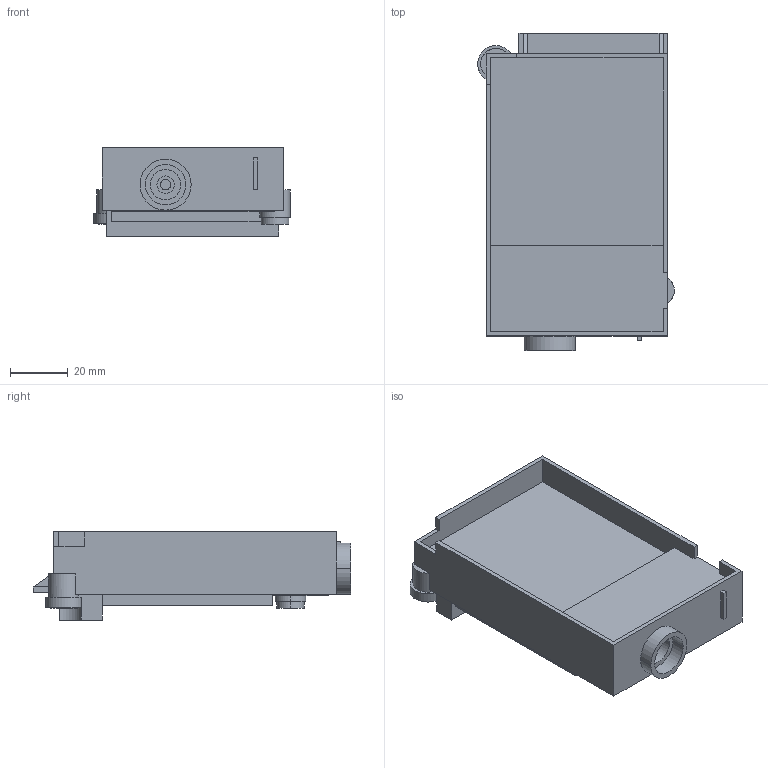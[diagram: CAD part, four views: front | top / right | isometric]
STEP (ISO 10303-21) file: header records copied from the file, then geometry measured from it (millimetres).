
FILE_DESCRIPTION((''),'2;1');
FILE_NAME('GT15_SOUT','2010-05-28T',('KW48605'),(''),'PRO/ENGINEER BY PARAMETRIC TECHNOLOGY CORPORATION, 2006420','PRO/ENGINEER BY PARAMETRIC TECHNOLOGY CORPORATION, 2006420','');
FILE_SCHEMA(('CONFIG_CONTROL_DESIGN'));
Length unit declared in the file: millimetre
Products named in the file (1): GT15_SOUT
Bounding box: 68.09 x 109.8 x 30.6 mm (x, y, z)
Volume: 109924.9 mm3; surface area: 25298.7 mm2
Topology: 1 solids, 1 shells, 107 faces, 281 edges, 185 vertices
Faces by surface type: plane 88, cylinder 19
Entity records: 3302 total; most frequent: CARTESIAN_POINT 573, ORIENTED_EDGE 562, DIRECTION 540, EDGE_CURVE 281, VECTOR 236, LINE 236, VERTEX_POINT 185, AXIS2_PLACEMENT_3D 152
